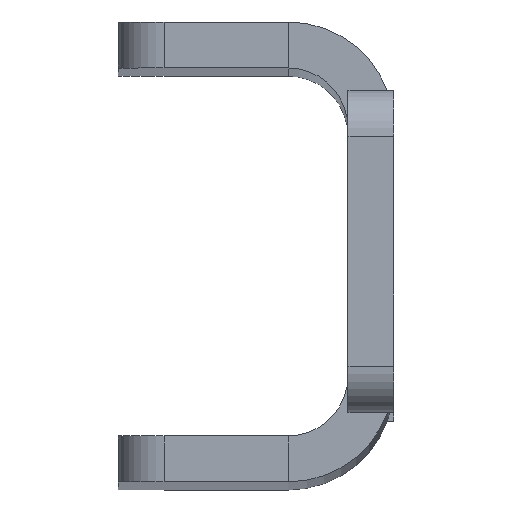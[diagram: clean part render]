
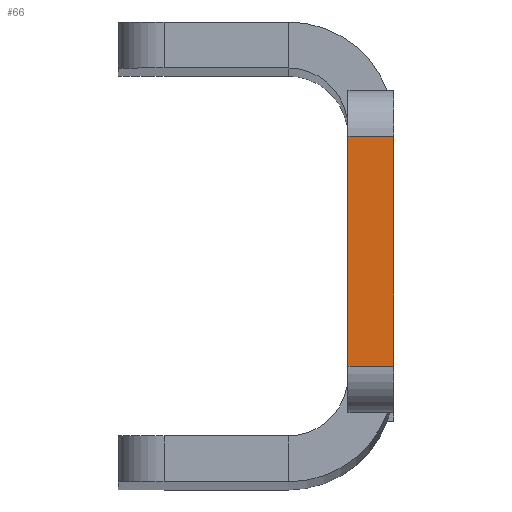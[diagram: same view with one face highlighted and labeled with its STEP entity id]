
A CAD part, top view. The second image highlights one B-rep face of the part: STEP entity #66.
In plain terms, the highlighted planar face has unit normal (0, 0, 1).
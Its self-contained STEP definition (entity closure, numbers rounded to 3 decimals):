
#66=ADVANCED_FACE('',(#570),#572,.T.);
#570=FACE_BOUND('',#571,.T.);
#571=EDGE_LOOP('',(#1000,#1001,#1002,#1003));
#572=PLANE('',#573);
#573=AXIS2_PLACEMENT_3D('',#574,#575,#576);
#574=CARTESIAN_POINT('',(0.,0.,233.));
#575=DIRECTION('',(0.,0.,1.));
#576=DIRECTION('',(1.,0.,0.));
#1000=ORIENTED_EDGE('',*,*,#1248,.F.);
#1001=ORIENTED_EDGE('',*,*,#1229,.T.);
#1002=ORIENTED_EDGE('',*,*,#1249,.T.);
#1003=ORIENTED_EDGE('',*,*,#1197,.T.);
#1197=EDGE_CURVE('',#1331,#1329,#1332,.T.);
#1229=EDGE_CURVE('',#1395,#1393,#1396,.T.);
#1248=EDGE_CURVE('',#1395,#1329,#1432,.T.);
#1249=EDGE_CURVE('',#1393,#1331,#1433,.T.);
#1329=VERTEX_POINT('',#1554);
#1331=VERTEX_POINT('',#1559);
#1332=LINE('',#1560,#1561);
#1393=VERTEX_POINT('',#1697);
#1395=VERTEX_POINT('',#1702);
#1396=LINE('',#1703,#1704);
#1432=LINE('',#1788,#1789);
#1433=LINE('',#1791,#1792);
#1554=CARTESIAN_POINT('',(12.,15.,233.));
#1559=CARTESIAN_POINT('',(12.,5.,233.));
#1560=CARTESIAN_POINT('',(12.,5.,233.));
#1561=VECTOR('',#1562,1.);
#1562=DIRECTION('',(0.,1.,0.));
#1697=CARTESIAN_POINT('',(10.,5.,233.));
#1702=CARTESIAN_POINT('',(10.,15.,233.));
#1703=CARTESIAN_POINT('',(10.,15.,233.));
#1704=VECTOR('',#1705,1.);
#1705=DIRECTION('',(0.,-1.,0.));
#1788=CARTESIAN_POINT('',(10.,15.,233.));
#1789=VECTOR('',#1790,1.);
#1790=DIRECTION('',(1.,0.,0.));
#1791=CARTESIAN_POINT('',(10.,5.,233.));
#1792=VECTOR('',#1793,1.);
#1793=DIRECTION('',(1.,0.,0.));
